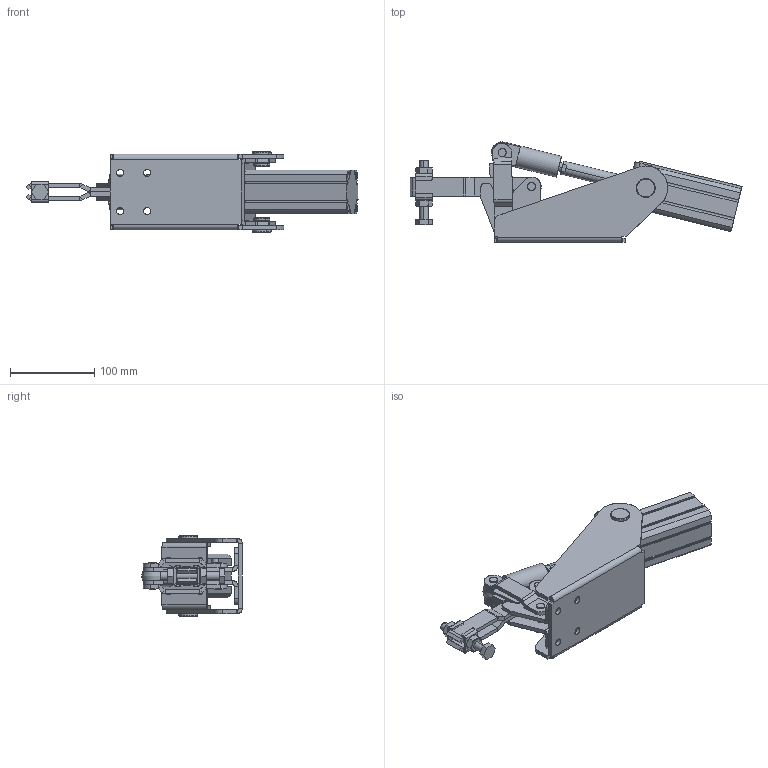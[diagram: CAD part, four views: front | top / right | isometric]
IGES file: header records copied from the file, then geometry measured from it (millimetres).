
Start section: SolidWorks IGES file using analytic representation for surfaces
Global section: file name: C:\Projetos\Grampos\KF-111 P\KF-111 DB P\KF-111 DB P.IGS; native system: SolidWorks 2013; preprocessor: SolidWorks 2013; author: Ricardo; date: 140828.142954; units: millimetre
Bounding box: 393.03 x 118.73 x 95.5 mm (x, y, z)
Surface area: 243433.7 mm2 (no closed solid volume)
Topology: 0 solids, 0 shells, 734 faces, 10830 edges, 10816 vertices
Faces by surface type: revolution 374, bspline 360
